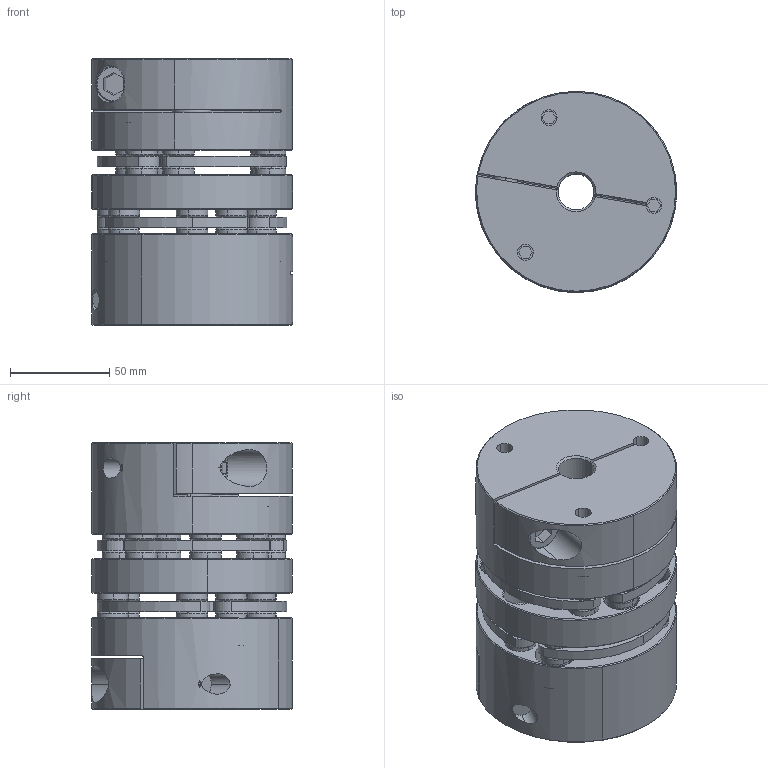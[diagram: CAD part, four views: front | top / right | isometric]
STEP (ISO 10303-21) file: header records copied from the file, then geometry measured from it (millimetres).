
FILE_DESCRIPTION((''),'2;1');
FILE_NAME('6P37-A1C','2019-02-14T',('SYSTEM'),(''),'PRO/ENGINEER BY PARAMETRIC TECHNOLOGY CORPORATION, 2016360','PRO/ENGINEER BY PARAMETRIC TECHNOLOGY CORPORATION, 2016360','');
FILE_SCHEMA(('AUTOMOTIVE_DESIGN { 1 0 10303 214 1 1 1 1 }'));
Length unit declared in the file: inch
Products named in the file (1): 6P37-A1C
Bounding box: 101.12 x 101 x 134.01 mm (x, y, z)
Volume: 810417.8 mm3; surface area: 174354.7 mm2
Topology: 1 solids, 17 shells, 1117 faces, 3190 edges, 2181 vertices
Faces by surface type: cylinder 525, cone 270, plane 232, torus 90
Entity records: 48843 total; most frequent: CARTESIAN_POINT 7494, DIRECTION 7295, ORIENTED_EDGE 6380, PRESENTATION_STYLE_ASSIGNMENT 3234, STYLED_ITEM 3191, CURVE_STYLE 3190, EDGE_CURVE 3190, AXIS2_PLACEMENT_3D 3106
